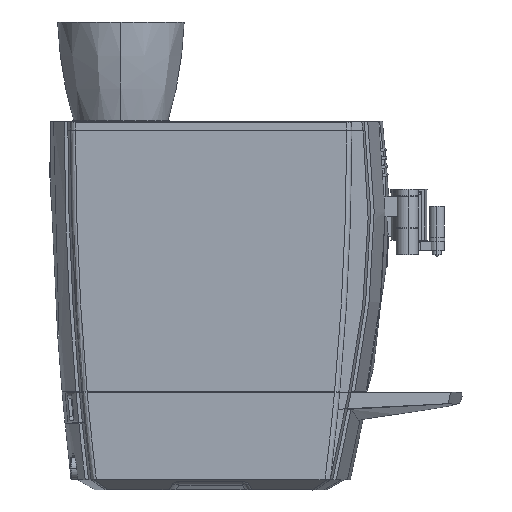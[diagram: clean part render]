
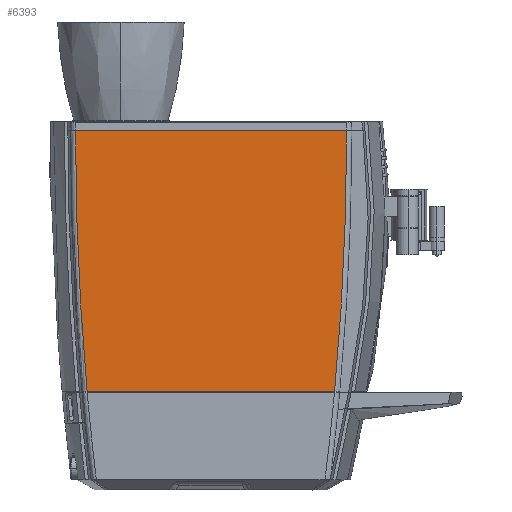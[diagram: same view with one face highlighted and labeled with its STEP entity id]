
A CAD part, left-side view. The second image highlights one B-rep face of the part: STEP entity #6393.
In plain terms, the highlighted planar face has unit normal (-1, 0, 0).
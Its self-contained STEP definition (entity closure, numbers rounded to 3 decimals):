
#4203=CIRCLE('',#29558,3375.529);
#4244=CIRCLE('',#29618,3522.06);
#6393=ADVANCED_FACE('',(#8258),#6907,.F.);
#6907=PLANE('',#29652);
#8258=FACE_OUTER_BOUND('',#9831,.T.);
#9831=EDGE_LOOP('',(#17800,#17801,#17802,#17803));
#17800=ORIENTED_EDGE('',*,*,#24852,.F.);
#17801=ORIENTED_EDGE('',*,*,#24760,.F.);
#17802=ORIENTED_EDGE('',*,*,#24885,.F.);
#17803=ORIENTED_EDGE('',*,*,#24843,.F.);
#20746=VERTEX_POINT('',#67514);
#20747=VERTEX_POINT('',#67516);
#20809=VERTEX_POINT('',#67835);
#20810=VERTEX_POINT('',#67837);
#24760=EDGE_CURVE('',#20746,#20747,#4203,.T.);
#24843=EDGE_CURVE('',#20809,#20810,#4244,.T.);
#24852=EDGE_CURVE('',#20747,#20809,#26265,.T.);
#24885=EDGE_CURVE('',#20810,#20746,#26283,.T.);
#26265=LINE('',#67866,#27539);
#26283=LINE('',#68309,#27557);
#27539=VECTOR('',#34996,1.);
#27557=VECTOR('',#35046,1.);
#29558=AXIS2_PLACEMENT_3D('',#67515,#34842,#34843);
#29618=AXIS2_PLACEMENT_3D('',#67836,#34984,#34985);
#29652=AXIS2_PLACEMENT_3D('',#68882,#35083,#35084);
#34842=DIRECTION('',(1.,0.,0.));
#34843=DIRECTION('',(0.,0.,-1.));
#34984=DIRECTION('',(1.,0.,0.));
#34985=DIRECTION('',(0.,0.,-1.));
#34996=DIRECTION('',(0.,1.,0.));
#35046=DIRECTION('',(0.,-1.,0.));
#35083=DIRECTION('',(1.,0.,0.));
#35084=DIRECTION('',(0.,-1.,0.));
#67514=CARTESIAN_POINT('',(-240.,49.633,349.));
#67515=CARTESIAN_POINT('',(-240.,3425.161,349.));
#67516=CARTESIAN_POINT('',(-240.,64.222,35.5));
#67835=CARTESIAN_POINT('',(-240.,361.58,35.5));
#67836=CARTESIAN_POINT('',(-240.,-3146.5,349.));
#67837=CARTESIAN_POINT('',(-240.,375.56,349.));
#67866=CARTESIAN_POINT('',(-240.,-172.298,35.5));
#68309=CARTESIAN_POINT('',(-240.,381.76,349.));
#68882=CARTESIAN_POINT('',(-240.,-194.595,1149.));
